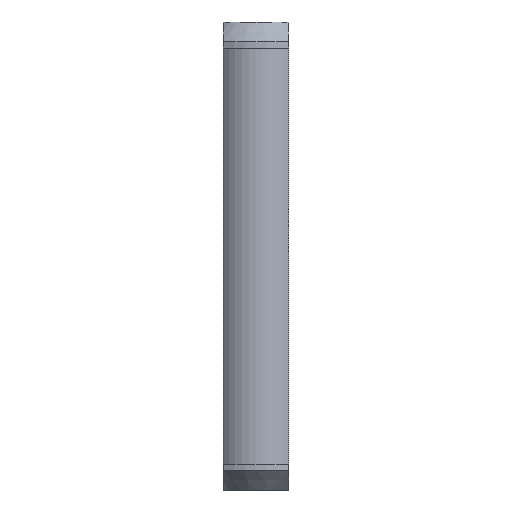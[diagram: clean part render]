
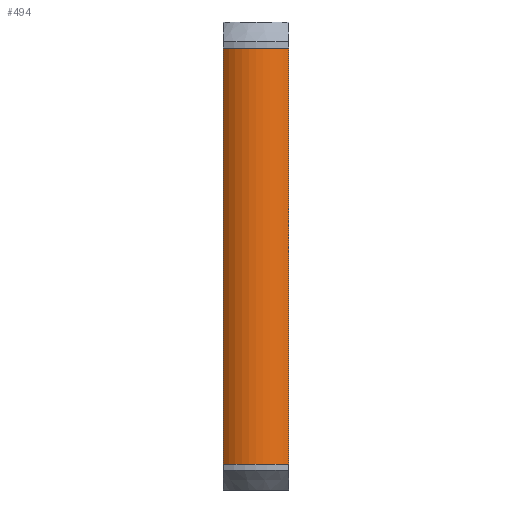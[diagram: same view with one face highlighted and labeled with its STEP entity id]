
A CAD part, left-side view. The second image highlights one B-rep face of the part: STEP entity #494.
In plain terms, the highlighted cylindrical face has radius 1.75 mm (diameter 3.5 mm), a partial arc.
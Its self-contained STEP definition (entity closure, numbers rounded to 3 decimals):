
#17=CYLINDRICAL_SURFACE('',#552,1.75);
#26=LINE('',#725,#74);
#60=LINE('',#820,#108);
#74=VECTOR('',#582,10.);
#108=VECTOR('',#626,10.);
#150=FACE_OUTER_BOUND('',#176,.T.);
#176=EDGE_LOOP('',(#437,#438,#439,#440));
#194=CIRCLE('',#546,1.75);
#197=CIRCLE('',#553,1.75);
#216=VERTEX_POINT('',#722);
#217=VERTEX_POINT('',#724);
#254=VERTEX_POINT('',#817);
#255=VERTEX_POINT('',#819);
#266=EDGE_CURVE('',#217,#216,#26,.T.);
#308=EDGE_CURVE('',#255,#254,#60,.T.);
#320=EDGE_CURVE('',#216,#255,#194,.T.);
#323=EDGE_CURVE('',#254,#217,#197,.T.);
#437=ORIENTED_EDGE('',*,*,#320,.T.);
#438=ORIENTED_EDGE('',*,*,#308,.T.);
#439=ORIENTED_EDGE('',*,*,#323,.T.);
#440=ORIENTED_EDGE('',*,*,#266,.T.);
#494=ADVANCED_FACE('',(#150),#17,.T.);
#546=AXIS2_PLACEMENT_3D('',#841,#659,#660);
#552=AXIS2_PLACEMENT_3D('',#847,#671,#672);
#553=AXIS2_PLACEMENT_3D('',#848,#673,#674);
#582=DIRECTION('',(0.,0.,1.));
#626=DIRECTION('',(0.,0.,-1.));
#659=DIRECTION('center_axis',(0.,0.,-1.));
#660=DIRECTION('ref_axis',(1.,0.,0.));
#671=DIRECTION('center_axis',(0.,0.,1.));
#672=DIRECTION('ref_axis',(-1.,0.,0.));
#673=DIRECTION('center_axis',(0.,0.,1.));
#674=DIRECTION('ref_axis',(1.,0.,0.));
#722=CARTESIAN_POINT('',(-1.225,-1.25,17.));
#724=CARTESIAN_POINT('',(-1.225,-1.25,1.));
#725=CARTESIAN_POINT('',(-1.225,-1.25,0.));
#817=CARTESIAN_POINT('',(-1.225,1.25,1.));
#819=CARTESIAN_POINT('',(-1.225,1.25,17.));
#820=CARTESIAN_POINT('',(-1.225,1.25,0.));
#841=CARTESIAN_POINT('Origin',(0.,0.,17.));
#847=CARTESIAN_POINT('Origin',(0.,0.,0.));
#848=CARTESIAN_POINT('Origin',(0.,0.,1.));
